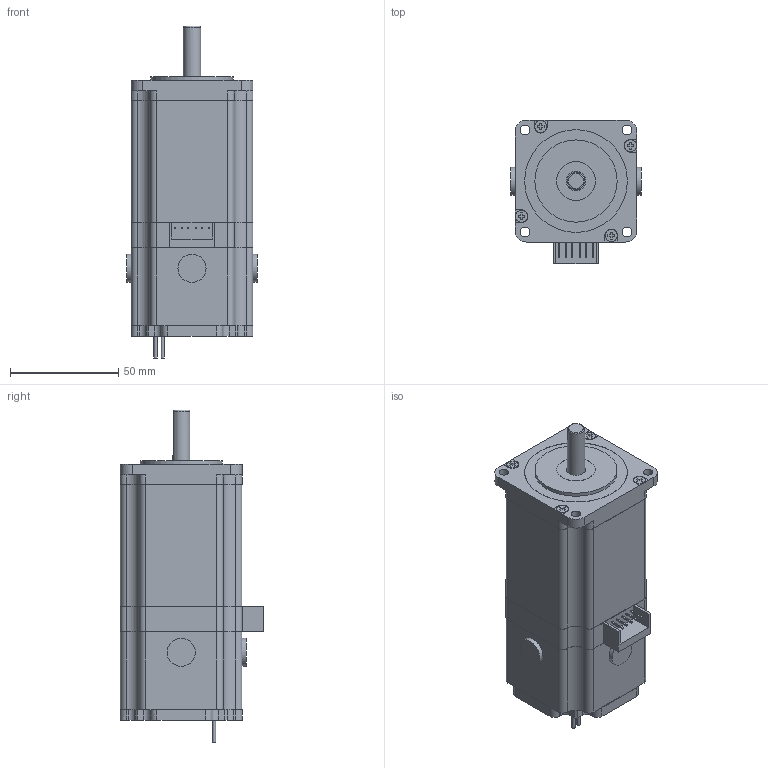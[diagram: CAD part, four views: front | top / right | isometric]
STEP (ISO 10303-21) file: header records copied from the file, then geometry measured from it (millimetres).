
FILE_DESCRIPTION(/* description */ (''),/* implementation_level */ '2;1');
FILE_NAME(/* name */ 'UB57D24-D42-478.stp',/* time_stamp */ '2018-08-20T11:32:57+08:00',/* author */ (''),/* organization */ (''),/* preprocessor_version */ 'ST-DEVELOPER v11',/* originating_system */ 'SIEMENS UGS NX 6.0',/* authorisation */ '');
FILE_SCHEMA (('CONFIG_CONTROL_DESIGN'));
Length unit declared in the file: millimetre
Products named in the file (1): UB57D24-D42-478
Bounding box: 60.2 x 66.4 x 153.5 mm (x, y, z)
Volume: 344697 mm3; surface area: 33327 mm2
Topology: 1 solids, 2 shells, 271 faces, 712 edges, 473 vertices
Faces by surface type: plane 178, cylinder 92, torus 1
Full cylindrical faces by diameter (mm): 1.5 x2, 4.5 x4, 5.5 x4, 6 x1, 8 x1, 9 x2, 13 x3, 18 x1, 38 x1, 47.5 x1
Entity records: 8350 total; most frequent: CARTESIAN_POINT 1466, DIRECTION 1423, ORIENTED_EDGE 1374, EDGE_CURVE 687, LINE 491, VECTOR 491, VERTEX_POINT 468, AXIS2_PLACEMENT_3D 466
